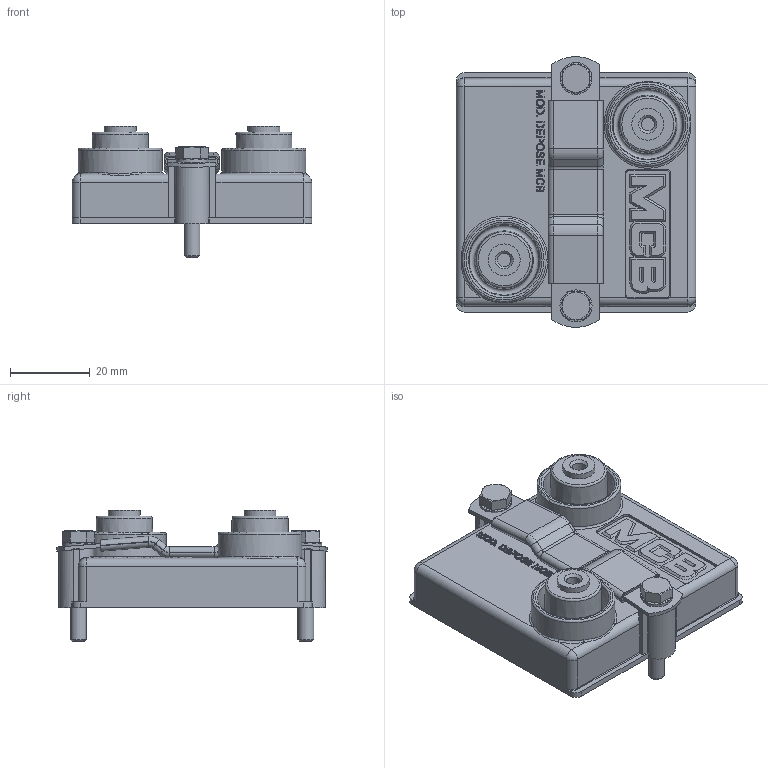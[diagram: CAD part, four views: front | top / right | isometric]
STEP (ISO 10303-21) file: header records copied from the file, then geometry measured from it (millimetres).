
FILE_DESCRIPTION(/* description */ (' '),/* implementation_level */ '2;1');
FILE_NAME(/* name */ '480-013',/* time_stamp */ '2017-09-18T14:09:19+02:00',/* author */ ('VISHAY MCB INDUSTRIE'),/* organization */ (' '),/* preprocessor_version */ 'ST-DEVELOPER v16.7',/* originating_system */ 'DEX',/* authorisation */ $);
FILE_SCHEMA (('AUTOMOTIVE_DESIGN {1 0 10303 214 3 1 1}'));
Length unit declared in the file: millimetre
Products named in the file (8): 480-013; 284001_0; Rondelle CS M4 etroite_0; 277276; 211604_Bride position travail; 277276_737986_gaine bride travail; 277276_737987_gaine bride travail; Vis HM 4x25_0
Assembly tree (9 placements, depth 3):
  480-013
    284001_0
    Rondelle CS M4 etroite_0  x2
    277276
      211604_Bride position travail
      277276_737986_gaine bride travail
      277276_737987_gaine bride travail
    Vis HM 4x25_0  x2
Bounding box: 60 x 67.82 x 33 mm (x, y, z)
Volume: 52082.7 mm3; surface area: 21581.9 mm2
Topology: 8 solids, 9 shells, 758 faces, 1985 edges, 1282 vertices
Faces by surface type: plane 378, cylinder 148, bspline 114, cone 64, torus 50, sphere 4
Full cylindrical faces by diameter (mm): 3.3 x2, 4 x4, 4.4 x2, 4.5 x2, 6 x2, 8 x4, 20.999 x2
Entity records: 26515 total; most frequent: CARTESIAN_POINT 6458, ORIENTED_EDGE 3484, DIRECTION 3083, EDGE_CURVE 1742, VERTEX_POINT 1141, AXIS2_PLACEMENT_3D 1041, LINE 1001, VECTOR 1001
